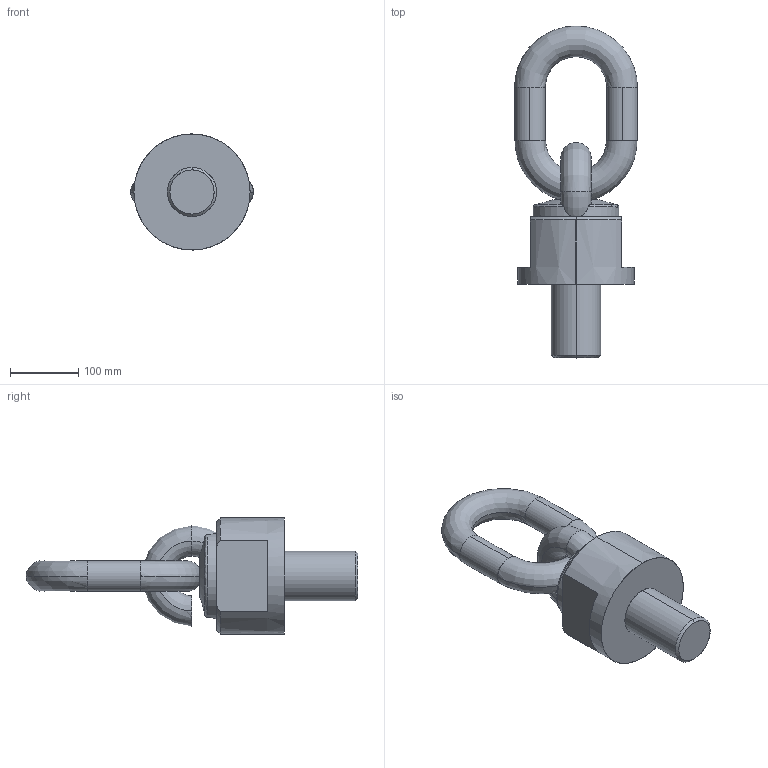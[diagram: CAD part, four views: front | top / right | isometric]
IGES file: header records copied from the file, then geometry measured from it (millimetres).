
Start section: START RECORD GO HERE.
Global section: file name: C800X31572108.igs; native system: DASSAULT SYSTEMES CATIA V5 R20 - www.3ds.com; preprocessor: CATIA Version 5 Release 20 ; author: Utente; organization: NB04-ASUS; date: 20200412.220943; units: millimetre
Bounding box: 180 x 486 x 170 mm (x, y, z)
Surface area: 227369.1 mm2 (no closed solid volume)
Topology: 0 solids, 0 shells, 42 faces, 233 edges, 233 vertices
Faces by surface type: revolution 30, extrusion 12
